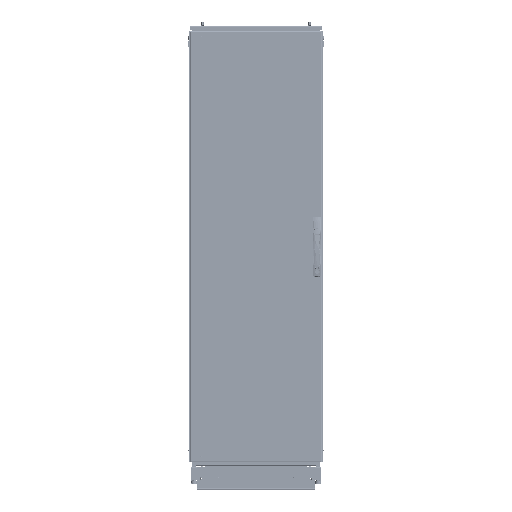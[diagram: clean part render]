
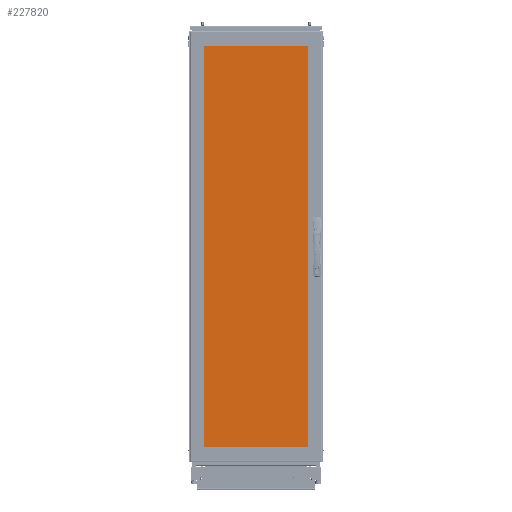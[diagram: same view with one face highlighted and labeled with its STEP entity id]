
A CAD part, top view. The second image highlights one B-rep face of the part: STEP entity #227820.
In plain terms, the highlighted planar face has unit normal (0, 0, 1) as drawn and (0, 0, -1) by its records, which use the part's own axes.
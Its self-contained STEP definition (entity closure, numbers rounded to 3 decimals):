
#283 = LINE ( 'NONE', #157941, #222227 ) ;
#3237 = FACE_OUTER_BOUND ( 'NONE', #84957, .T. ) ;
#7687 = EDGE_CURVE ( 'NONE', #55842, #41049, #386982, .T. ) ;
#8139 = CARTESIAN_POINT ( 'NONE',  ( 885.977, 259.499, 0. ) ) ;
#9216 = EDGE_CURVE ( 'NONE', #161689, #220024, #345232, .T. ) ;
#12782 = FACE_BOUND ( 'NONE', #368810, .T. ) ;
#15128 = VERTEX_POINT ( 'NONE', #317156 ) ;
#26447 = DIRECTION ( 'NONE',  ( 0., -1., 0. ) ) ;
#28767 = ORIENTED_EDGE ( 'NONE', *, *, #241432, .F. ) ;
#34504 = ORIENTED_EDGE ( 'NONE', *, *, #9216, .F. ) ;
#37853 = DIRECTION ( 'NONE',  ( 0.707, -0.707, 0. ) ) ;
#38355 = CARTESIAN_POINT ( 'NONE',  ( -934.999, -210.477, 0. ) ) ;
#40306 = AXIS2_PLACEMENT_3D ( 'NONE', #114546, #300698, #177961 ) ;
#41049 = VERTEX_POINT ( 'NONE', #339212 ) ;
#46112 = LINE ( 'NONE', #184210, #152763 ) ;
#46541 = AXIS2_PLACEMENT_3D ( 'NONE', #243276, #86832, #117905 ) ;
#48713 = CIRCLE ( 'NONE', #105362, 5.563 ) ;
#55842 = VERTEX_POINT ( 'NONE', #210549 ) ;
#70468 = ORIENTED_EDGE ( 'NONE', *, *, #259009, .F. ) ;
#72589 = VECTOR ( 'NONE', #164039, 1000. ) ;
#78723 = CARTESIAN_POINT ( 'NONE',  ( -934.999, 259.499, 0. ) ) ;
#81440 = CARTESIAN_POINT ( 'NONE',  ( 5.563, -247.205, 0. ) ) ;
#84957 = EDGE_LOOP ( 'NONE', ( #175567, #34504, #70468, #261174, #367764, #88678, #312360, #28767 ) ) ;
#86832 = DIRECTION ( 'NONE',  ( 0., 0., -1. ) ) ;
#88678 = ORIENTED_EDGE ( 'NONE', *, *, #374863, .F. ) ;
#90029 = VECTOR ( 'NONE', #26447, 1000. ) ;
#91651 = EDGE_CURVE ( 'NONE', #213331, #94576, #48713, .T. ) ;
#94576 = VERTEX_POINT ( 'NONE', #278090 ) ;
#94832 = DIRECTION ( 'NONE',  ( 0., 0., 1. ) ) ;
#100826 = ORIENTED_EDGE ( 'NONE', *, *, #91651, .F. ) ;
#105362 = AXIS2_PLACEMENT_3D ( 'NONE', #314236, #345290, #188990 ) ;
#114546 = CARTESIAN_POINT ( 'NONE',  ( 0., 247.206, 0. ) ) ;
#117905 = DIRECTION ( 'NONE',  ( 1., 0., 0. ) ) ;
#136141 = DIRECTION ( 'NONE',  ( 0., 1., 0. ) ) ;
#141225 = CARTESIAN_POINT ( 'NONE',  ( 934.999, 210.477, 0. ) ) ;
#152763 = VECTOR ( 'NONE', #397214, 1000. ) ;
#157941 = CARTESIAN_POINT ( 'NONE',  ( -934.999, -259.499, 0. ) ) ;
#161689 = VERTEX_POINT ( 'NONE', #237171 ) ;
#164039 = DIRECTION ( 'NONE',  ( -0.707, -0.707, 0. ) ) ;
#165023 = CARTESIAN_POINT ( 'NONE',  ( -885.977, 259.499, 0. ) ) ;
#165984 = AXIS2_PLACEMENT_3D ( 'NONE', #278226, #94832, #216254 ) ;
#167046 = VECTOR ( 'NONE', #37853, 1000. ) ;
#175482 = CIRCLE ( 'NONE', #196265, 5.563 ) ;
#175567 = ORIENTED_EDGE ( 'NONE', *, *, #320721, .F. ) ;
#176742 = LINE ( 'NONE', #180502, #90029 ) ;
#177961 = DIRECTION ( 'NONE',  ( 1., 0., 0. ) ) ;
#180502 = CARTESIAN_POINT ( 'NONE',  ( -934.999, 259.499, 0. ) ) ;
#180759 = VECTOR ( 'NONE', #386147, 1000. ) ;
#183720 = VECTOR ( 'NONE', #290194, 1000. ) ;
#184210 = CARTESIAN_POINT ( 'NONE',  ( 934.999, -210.477, 0. ) ) ;
#187399 = VERTEX_POINT ( 'NONE', #219283 ) ;
#188103 = EDGE_LOOP ( 'NONE', ( #100826, #316048 ) ) ;
#188990 = DIRECTION ( 'NONE',  ( 1., 0., 0. ) ) ;
#190787 = LINE ( 'NONE', #202191, #330321 ) ;
#196265 = AXIS2_PLACEMENT_3D ( 'NONE', #323708, #201110, #321056 ) ;
#201110 = DIRECTION ( 'NONE',  ( 0., 0., -1. ) ) ;
#202191 = CARTESIAN_POINT ( 'NONE',  ( 934.999, 259.499, 0. ) ) ;
#210549 = CARTESIAN_POINT ( 'NONE',  ( 5.563, 247.206, 0. ) ) ;
#213331 = VERTEX_POINT ( 'NONE', #81440 ) ;
#216254 = DIRECTION ( 'NONE',  ( 1., 0., 0. ) ) ;
#219283 = CARTESIAN_POINT ( 'NONE',  ( -885.977, -259.499, 0. ) ) ;
#220024 = VERTEX_POINT ( 'NONE', #165023 ) ;
#222227 = VECTOR ( 'NONE', #314313, 1000. ) ;
#227820 = ADVANCED_FACE ( 'NONE', ( #326864, #12782, #3237 ), #337563, .F. ) ;
#231234 = EDGE_CURVE ( 'NONE', #378249, #296202, #190787, .T. ) ;
#234130 = EDGE_CURVE ( 'NONE', #41049, #55842, #175482, .T. ) ;
#237171 = CARTESIAN_POINT ( 'NONE',  ( 885.977, 259.499, 0. ) ) ;
#241432 = EDGE_CURVE ( 'NONE', #15128, #263475, #176742, .T. ) ;
#243276 = CARTESIAN_POINT ( 'NONE',  ( 0., -247.205, 0. ) ) ;
#249655 = ORIENTED_EDGE ( 'NONE', *, *, #234130, .F. ) ;
#259009 = EDGE_CURVE ( 'NONE', #296202, #161689, #309399, .T. ) ;
#261174 = ORIENTED_EDGE ( 'NONE', *, *, #231234, .F. ) ;
#263475 = VERTEX_POINT ( 'NONE', #38355 ) ;
#278090 = CARTESIAN_POINT ( 'NONE',  ( -5.563, -247.205, 0. ) ) ;
#278226 = CARTESIAN_POINT ( 'NONE',  ( -934.999, -259.499, 0. ) ) ;
#287324 = CARTESIAN_POINT ( 'NONE',  ( 934.999, -210.477, 0. ) ) ;
#289404 = CARTESIAN_POINT ( 'NONE',  ( -934.999, 210.477, 0. ) ) ;
#290194 = DIRECTION ( 'NONE',  ( -0.707, 0.707, 0. ) ) ;
#296202 = VERTEX_POINT ( 'NONE', #141225 ) ;
#297450 = LINE ( 'NONE', #380547, #167046 ) ;
#300698 = DIRECTION ( 'NONE',  ( 0., 0., -1. ) ) ;
#309399 = LINE ( 'NONE', #8139, #183720 ) ;
#312360 = ORIENTED_EDGE ( 'NONE', *, *, #391442, .F. ) ;
#314236 = CARTESIAN_POINT ( 'NONE',  ( 0., -247.205, 0. ) ) ;
#314313 = DIRECTION ( 'NONE',  ( 1., 0., 0. ) ) ;
#316048 = ORIENTED_EDGE ( 'NONE', *, *, #335961, .F. ) ;
#317156 = CARTESIAN_POINT ( 'NONE',  ( -934.999, 210.477, 0. ) ) ;
#320721 = EDGE_CURVE ( 'NONE', #220024, #15128, #371820, .T. ) ;
#321056 = DIRECTION ( 'NONE',  ( 1., 0., 0. ) ) ;
#323708 = CARTESIAN_POINT ( 'NONE',  ( 0., 247.206, 0. ) ) ;
#326864 = FACE_BOUND ( 'NONE', #188103, .T. ) ;
#328442 = EDGE_CURVE ( 'NONE', #347129, #378249, #46112, .T. ) ;
#330321 = VECTOR ( 'NONE', #136141, 1000. ) ;
#335961 = EDGE_CURVE ( 'NONE', #94576, #213331, #392923, .T. ) ;
#337563 = PLANE ( 'NONE',  #165984 ) ;
#339212 = CARTESIAN_POINT ( 'NONE',  ( -5.563, 247.206, 0. ) ) ;
#345232 = LINE ( 'NONE', #78723, #180759 ) ;
#345290 = DIRECTION ( 'NONE',  ( 0., 0., -1. ) ) ;
#347129 = VERTEX_POINT ( 'NONE', #350347 ) ;
#350347 = CARTESIAN_POINT ( 'NONE',  ( 885.977, -259.499, 0. ) ) ;
#367764 = ORIENTED_EDGE ( 'NONE', *, *, #328442, .F. ) ;
#368810 = EDGE_LOOP ( 'NONE', ( #383082, #249655 ) ) ;
#371820 = LINE ( 'NONE', #289404, #72589 ) ;
#374863 = EDGE_CURVE ( 'NONE', #187399, #347129, #283, .T. ) ;
#378249 = VERTEX_POINT ( 'NONE', #287324 ) ;
#380547 = CARTESIAN_POINT ( 'NONE',  ( -934.999, -210.477, 0. ) ) ;
#383082 = ORIENTED_EDGE ( 'NONE', *, *, #7687, .F. ) ;
#386147 = DIRECTION ( 'NONE',  ( -1., 0., 0. ) ) ;
#386982 = CIRCLE ( 'NONE', #40306, 5.563 ) ;
#391442 = EDGE_CURVE ( 'NONE', #263475, #187399, #297450, .T. ) ;
#392923 = CIRCLE ( 'NONE', #46541, 5.563 ) ;
#397214 = DIRECTION ( 'NONE',  ( 0.707, 0.707, 0. ) ) ;
